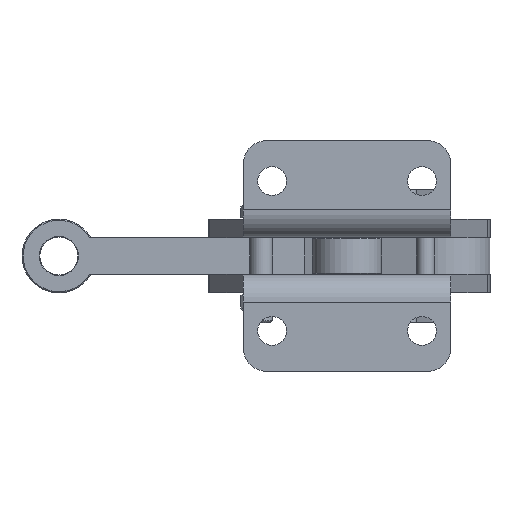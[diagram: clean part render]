
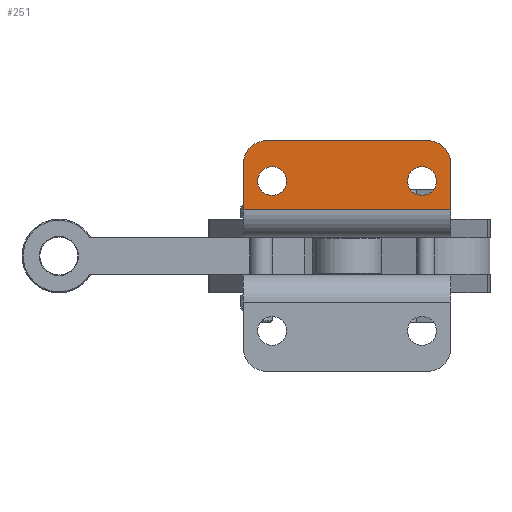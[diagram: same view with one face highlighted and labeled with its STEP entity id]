
A CAD part, front view. The second image highlights one B-rep face of the part: STEP entity #251.
In plain terms, the highlighted planar face has unit normal (0, -1, 0).
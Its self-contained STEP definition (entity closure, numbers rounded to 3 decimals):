
#251 = ADVANCED_FACE( '', ( #455, #456, #457 ), #458, .F. );
#455 = FACE_BOUND( '', #926, .T. );
#456 = FACE_BOUND( '', #927, .T. );
#457 = FACE_OUTER_BOUND( '', #928, .T. );
#458 = PLANE( '', #929 );
#926 = EDGE_LOOP( '', ( #1445 ) );
#927 = EDGE_LOOP( '', ( #1446 ) );
#928 = EDGE_LOOP( '', ( #1447, #1448, #1449, #1450, #1451, #1452 ) );
#929 = AXIS2_PLACEMENT_3D( '', #1453, #1454, #1455 );
#1445 = ORIENTED_EDGE( '', *, *, #2742, .T. );
#1446 = ORIENTED_EDGE( '', *, *, #2743, .T. );
#1447 = ORIENTED_EDGE( '', *, *, #2744, .F. );
#1448 = ORIENTED_EDGE( '', *, *, #2745, .F. );
#1449 = ORIENTED_EDGE( '', *, *, #2746, .T. );
#1450 = ORIENTED_EDGE( '', *, *, #2747, .F. );
#1451 = ORIENTED_EDGE( '', *, *, #2748, .T. );
#1452 = ORIENTED_EDGE( '', *, *, #2740, .F. );
#1453 = CARTESIAN_POINT( '', ( 110., 0., 50. ) );
#1454 = DIRECTION( '', ( 0., 1., 0. ) );
#1455 = DIRECTION( '', ( 0., 0., 1. ) );
#2740 = EDGE_CURVE( '', #3171, #3173, #3174, .T. );
#2742 = EDGE_CURVE( '', #3176, #3176, #3177, .T. );
#2743 = EDGE_CURVE( '', #3178, #3178, #3179, .T. );
#2744 = EDGE_CURVE( '', #3180, #3171, #3181, .T. );
#2745 = EDGE_CURVE( '', #3182, #3180, #3183, .T. );
#2746 = EDGE_CURVE( '', #3182, #3184, #3185, .T. );
#2747 = EDGE_CURVE( '', #3186, #3184, #3187, .T. );
#2748 = EDGE_CURVE( '', #3186, #3173, #3188, .T. );
#3171 = VERTEX_POINT( '', #3942 );
#3173 = VERTEX_POINT( '', #3944 );
#3174 = LINE( '', #3945, #3946 );
#3176 = VERTEX_POINT( '', #3948 );
#3177 = CIRCLE( '', #3949, 6.25 );
#3178 = VERTEX_POINT( '', #3950 );
#3179 = CIRCLE( '', #3951, 6.25 );
#3180 = VERTEX_POINT( '', #3952 );
#3181 = LINE( '', #3953, #3954 );
#3182 = VERTEX_POINT( '', #3955 );
#3183 = CIRCLE( '', #3956, 10. );
#3184 = VERTEX_POINT( '', #3957 );
#3185 = LINE( '', #3958, #3959 );
#3186 = VERTEX_POINT( '', #3960 );
#3187 = CIRCLE( '', #3961, 10. );
#3188 = LINE( '', #3962, #3963 );
#3942 = CARTESIAN_POINT( '', ( 90., 0., 20. ) );
#3944 = CARTESIAN_POINT( '', ( 0., 0., 20. ) );
#3945 = CARTESIAN_POINT( '', ( 110., 0., 20. ) );
#3946 = VECTOR( '', #5001, 1000. );
#3948 = CARTESIAN_POINT( '', ( 83.75, 0., 32.5 ) );
#3949 = AXIS2_PLACEMENT_3D( '', #5005, #5006, #5007 );
#3950 = CARTESIAN_POINT( '', ( 18.75, 0., 32.5 ) );
#3951 = AXIS2_PLACEMENT_3D( '', #5008, #5009, #5010 );
#3952 = CARTESIAN_POINT( '', ( 90., 0., 40. ) );
#3953 = CARTESIAN_POINT( '', ( 90., 0., 90. ) );
#3954 = VECTOR( '', #5011, 1000. );
#3955 = CARTESIAN_POINT( '', ( 80., 0., 50. ) );
#3956 = AXIS2_PLACEMENT_3D( '', #5012, #5013, #5014 );
#3957 = CARTESIAN_POINT( '', ( 10., 0., 50. ) );
#3958 = CARTESIAN_POINT( '', ( 110., 0., 50. ) );
#3959 = VECTOR( '', #5015, 1000. );
#3960 = CARTESIAN_POINT( '', ( 0., 0., 40. ) );
#3961 = AXIS2_PLACEMENT_3D( '', #5016, #5017, #5018 );
#3962 = CARTESIAN_POINT( '', ( 0., 0., 90. ) );
#3963 = VECTOR( '', #5019, 1000. );
#5001 = DIRECTION( '', ( -1., 0., 0. ) );
#5005 = CARTESIAN_POINT( '', ( 77.5, 0., 32.5 ) );
#5006 = DIRECTION( '', ( 0., 1., 0. ) );
#5007 = DIRECTION( '', ( 1., 0., 0. ) );
#5008 = CARTESIAN_POINT( '', ( 12.5, 0., 32.5 ) );
#5009 = DIRECTION( '', ( 0., 1., 0. ) );
#5010 = DIRECTION( '', ( 1., 0., 0. ) );
#5011 = DIRECTION( '', ( 0., 0., -1. ) );
#5012 = CARTESIAN_POINT( '', ( 80., 0., 40. ) );
#5013 = DIRECTION( '', ( 0., 1., 0. ) );
#5014 = DIRECTION( '', ( 1., 0., 0. ) );
#5015 = DIRECTION( '', ( -1., 0., 0. ) );
#5016 = CARTESIAN_POINT( '', ( 10., 0., 40. ) );
#5017 = DIRECTION( '', ( 0., 1., 0. ) );
#5018 = DIRECTION( '', ( 1., 0., 0. ) );
#5019 = DIRECTION( '', ( 0., 0., -1. ) );
